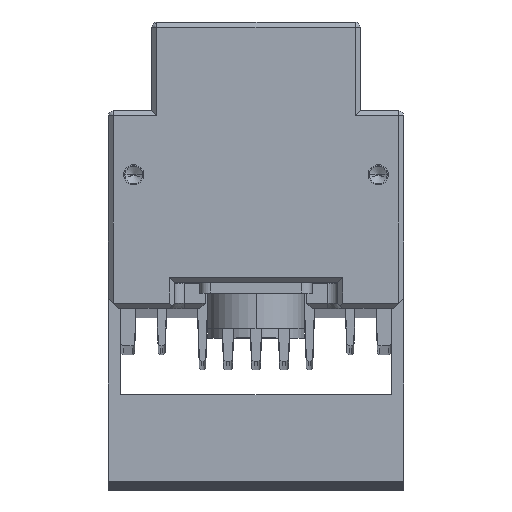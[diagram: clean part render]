
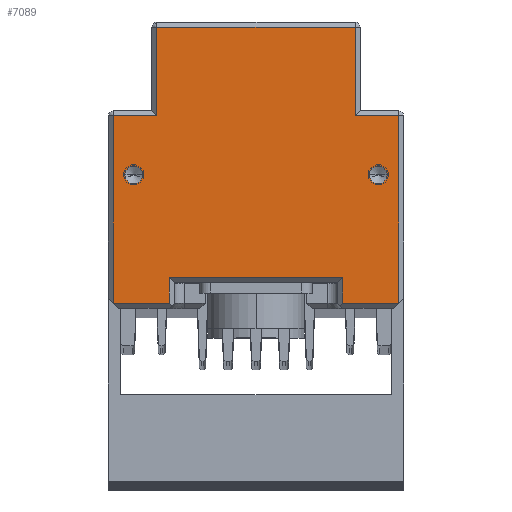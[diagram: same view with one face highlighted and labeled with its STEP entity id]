
A CAD part, top view. The second image highlights one B-rep face of the part: STEP entity #7089.
In plain terms, the highlighted planar face has unit normal (0, 0, 1).
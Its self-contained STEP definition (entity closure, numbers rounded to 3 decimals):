
#761=DIRECTION('',(1.,0.,0.));
#762=VECTOR('',#761,11.);
#763=CARTESIAN_POINT('',(-28.,-9.406,535.));
#764=LINE('',#763,#762);
#765=DIRECTION('',(0.,-1.,0.));
#766=VECTOR('',#765,36.8);
#767=CARTESIAN_POINT('',(-28.,27.394,535.));
#768=LINE('',#767,#766);
#769=DIRECTION('',(-1.,0.,0.));
#770=VECTOR('',#769,8.55);
#771=CARTESIAN_POINT('',(-19.45,27.394,535.));
#772=LINE('',#771,#770);
#773=DIRECTION('',(0.,-1.,0.));
#774=VECTOR('',#773,17.4);
#775=CARTESIAN_POINT('',(-19.45,44.794,535.));
#776=LINE('',#775,#774);
#777=DIRECTION('',(-1.,0.,0.));
#778=VECTOR('',#777,38.899);
#779=CARTESIAN_POINT('',(19.45,44.794,535.));
#780=LINE('',#779,#778);
#781=DIRECTION('',(0.,1.,0.));
#782=VECTOR('',#781,17.4);
#783=CARTESIAN_POINT('',(19.45,27.394,535.));
#784=LINE('',#783,#782);
#785=DIRECTION('',(-1.,0.,0.));
#786=VECTOR('',#785,8.55);
#787=CARTESIAN_POINT('',(28.,27.394,535.));
#788=LINE('',#787,#786);
#789=DIRECTION('',(0.,1.,0.));
#790=VECTOR('',#789,36.8);
#791=CARTESIAN_POINT('',(28.,-9.406,535.));
#792=LINE('',#791,#790);
#793=DIRECTION('',(1.,0.,0.));
#794=VECTOR('',#793,11.);
#795=CARTESIAN_POINT('',(17.,-9.406,535.));
#796=LINE('',#795,#794);
#797=DIRECTION('',(0.,-1.,0.));
#798=VECTOR('',#797,5.);
#799=CARTESIAN_POINT('',(17.,-4.406,535.));
#800=LINE('',#799,#798);
#801=DIRECTION('',(-1.,0.,0.));
#802=VECTOR('',#801,34.);
#803=CARTESIAN_POINT('',(17.,-4.406,535.));
#804=LINE('',#803,#802);
#805=DIRECTION('',(0.,1.,0.));
#806=VECTOR('',#805,5.);
#807=CARTESIAN_POINT('',(-17.,-9.406,535.));
#808=LINE('',#807,#806);
#809=CARTESIAN_POINT('',(24.,15.794,535.));
#810=DIRECTION('',(0.,0.,-1.));
#811=DIRECTION('',(1.,0.,0.));
#812=AXIS2_PLACEMENT_3D('',#809,#810,#811);
#814=CARTESIAN_POINT('',(24.,15.794,535.));
#815=DIRECTION('',(0.,0.,-1.));
#816=DIRECTION('',(-1.,0.,0.));
#817=AXIS2_PLACEMENT_3D('',#814,#815,#816);
#819=CARTESIAN_POINT('',(-24.,15.794,535.));
#820=DIRECTION('',(0.,0.,-1.));
#821=DIRECTION('',(1.,0.,0.));
#822=AXIS2_PLACEMENT_3D('',#819,#820,#821);
#824=CARTESIAN_POINT('',(-24.,15.794,535.));
#825=DIRECTION('',(0.,0.,-1.));
#826=DIRECTION('',(-1.,0.,0.));
#827=AXIS2_PLACEMENT_3D('',#824,#825,#826);
#5188=CARTESIAN_POINT('',(-28.,-9.406,535.));
#5189=CARTESIAN_POINT('',(-17.,-9.406,535.));
#5190=VERTEX_POINT('',#5188);
#5191=VERTEX_POINT('',#5189);
#5200=CARTESIAN_POINT('',(-28.,27.394,535.));
#5201=VERTEX_POINT('',#5200);
#5204=CARTESIAN_POINT('',(-19.45,27.394,535.));
#5205=VERTEX_POINT('',#5204);
#5208=CARTESIAN_POINT('',(19.45,27.394,535.));
#5209=CARTESIAN_POINT('',(19.45,44.794,535.));
#5210=VERTEX_POINT('',#5208);
#5211=VERTEX_POINT('',#5209);
#5218=CARTESIAN_POINT('',(-19.45,44.794,535.));
#5219=VERTEX_POINT('',#5218);
#5224=CARTESIAN_POINT('',(28.,-9.406,535.));
#5225=CARTESIAN_POINT('',(28.,27.394,535.));
#5226=VERTEX_POINT('',#5224);
#5227=VERTEX_POINT('',#5225);
#5238=CARTESIAN_POINT('',(17.,-9.406,535.));
#5239=VERTEX_POINT('',#5238);
#5260=CARTESIAN_POINT('',(17.,-4.406,535.));
#5261=VERTEX_POINT('',#5260);
#5262=CARTESIAN_POINT('',(-17.,-4.406,535.));
#5263=VERTEX_POINT('',#5262);
#5894=CARTESIAN_POINT('',(25.75,15.794,535.));
#5895=VERTEX_POINT('',#5894);
#5896=CARTESIAN_POINT('',(22.25,15.794,535.));
#5897=VERTEX_POINT('',#5896);
#5904=CARTESIAN_POINT('',(-22.25,15.794,535.));
#5905=VERTEX_POINT('',#5904);
#5906=CARTESIAN_POINT('',(-25.75,15.794,535.));
#5907=VERTEX_POINT('',#5906);
#7047=CARTESIAN_POINT('',(0.,0.,535.));
#7048=DIRECTION('',(0.,0.,1.));
#7049=DIRECTION('',(1.,0.,0.));
#7050=AXIS2_PLACEMENT_3D('',#7047,#7048,#7049);
#7051=PLANE('',#7050);
#7053=ORIENTED_EDGE('',*,*,#7052,.F.);
#7055=ORIENTED_EDGE('',*,*,#7054,.F.);
#7057=ORIENTED_EDGE('',*,*,#7056,.F.);
#7059=ORIENTED_EDGE('',*,*,#7058,.F.);
#7061=ORIENTED_EDGE('',*,*,#7060,.F.);
#7063=ORIENTED_EDGE('',*,*,#7062,.F.);
#7065=ORIENTED_EDGE('',*,*,#7064,.F.);
#7067=ORIENTED_EDGE('',*,*,#7066,.F.);
#7069=ORIENTED_EDGE('',*,*,#7068,.F.);
#7071=ORIENTED_EDGE('',*,*,#7070,.F.);
#7073=ORIENTED_EDGE('',*,*,#7072,.T.);
#7074=ORIENTED_EDGE('',*,*,#7036,.F.);
#7075=EDGE_LOOP('',(#7053,#7055,#7057,#7059,#7061,#7063,#7065,#7067,#7069,#7071,
#7073,#7074));
#7076=FACE_OUTER_BOUND('',#7075,.F.);
#7078=ORIENTED_EDGE('',*,*,#7077,.F.);
#7080=ORIENTED_EDGE('',*,*,#7079,.F.);
#7081=EDGE_LOOP('',(#7078,#7080));
#7082=FACE_BOUND('',#7081,.F.);
#7084=ORIENTED_EDGE('',*,*,#7083,.F.);
#7086=ORIENTED_EDGE('',*,*,#7085,.F.);
#7087=EDGE_LOOP('',(#7084,#7086));
#7088=FACE_BOUND('',#7087,.F.);
#813=CIRCLE('',#812,1.75);
#818=CIRCLE('',#817,1.75);
#823=CIRCLE('',#822,1.75);
#828=CIRCLE('',#827,1.75);
#7036=EDGE_CURVE('',#5191,#5263,#808,.T.);
#7052=EDGE_CURVE('',#5190,#5191,#764,.T.);
#7054=EDGE_CURVE('',#5201,#5190,#768,.T.);
#7056=EDGE_CURVE('',#5205,#5201,#772,.T.);
#7058=EDGE_CURVE('',#5219,#5205,#776,.T.);
#7060=EDGE_CURVE('',#5211,#5219,#780,.T.);
#7062=EDGE_CURVE('',#5210,#5211,#784,.T.);
#7064=EDGE_CURVE('',#5227,#5210,#788,.T.);
#7066=EDGE_CURVE('',#5226,#5227,#792,.T.);
#7068=EDGE_CURVE('',#5239,#5226,#796,.T.);
#7070=EDGE_CURVE('',#5261,#5239,#800,.T.);
#7072=EDGE_CURVE('',#5261,#5263,#804,.T.);
#7077=EDGE_CURVE('',#5895,#5897,#813,.T.);
#7079=EDGE_CURVE('',#5897,#5895,#818,.T.);
#7083=EDGE_CURVE('',#5905,#5907,#823,.T.);
#7085=EDGE_CURVE('',#5907,#5905,#828,.T.);
#7089=ADVANCED_FACE('',(#7076,#7082,#7088),#7051,.T.);
